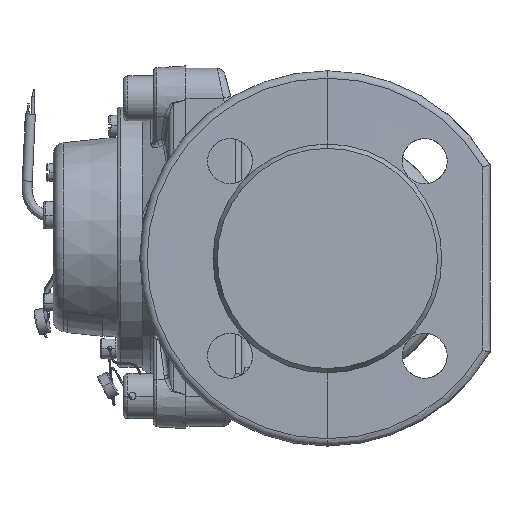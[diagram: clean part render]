
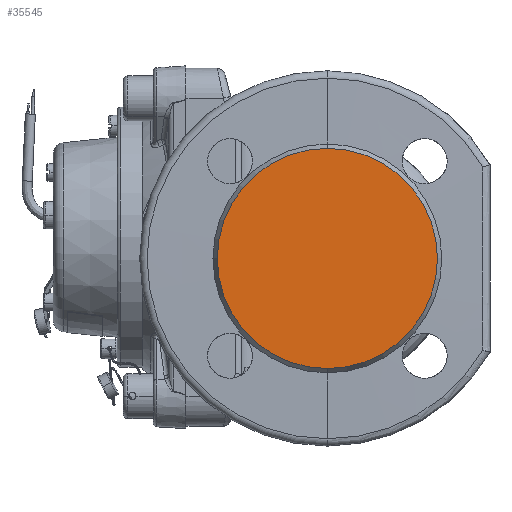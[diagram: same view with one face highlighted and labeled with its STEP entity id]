
A CAD part, left-side view. The second image highlights one B-rep face of the part: STEP entity #35545.
In plain terms, the highlighted planar face has unit normal (-1, 0, 0).
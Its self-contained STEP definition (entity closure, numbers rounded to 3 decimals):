
#4041 = EDGE_LOOP ( 'NONE', ( #31194, #27196 ) ) ;
#4471 = DIRECTION ( 'NONE',  ( 0., 0., 1. ) ) ;
#5379 = CIRCLE ( 'NONE', #78284, 44. ) ;
#8208 = CIRCLE ( 'NONE', #17828, 44. ) ;
#10934 = CARTESIAN_POINT ( 'NONE',  ( -100., 0., 0. ) ) ;
#11483 = CARTESIAN_POINT ( 'NONE',  ( -100., 0., -44. ) ) ;
#13904 = CARTESIAN_POINT ( 'NONE',  ( -100., 0., 0. ) ) ;
#15572 = DIRECTION ( 'NONE',  ( 0., 0., 1. ) ) ;
#17383 = FACE_OUTER_BOUND ( 'NONE', #4041, .T. ) ;
#17828 = AXIS2_PLACEMENT_3D ( 'NONE', #13904, #78597, #25171 ) ;
#25171 = DIRECTION ( 'NONE',  ( 0., 0., 1. ) ) ;
#27196 = ORIENTED_EDGE ( 'NONE', *, *, #39348, .T. ) ;
#30398 = DIRECTION ( 'NONE',  ( 1., 0., 0. ) ) ;
#31194 = ORIENTED_EDGE ( 'NONE', *, *, #72286, .T. ) ;
#35545 = ADVANCED_FACE ( 'NONE', ( #17383 ), #38105, .F. ) ;
#38105 = PLANE ( 'NONE',  #84657 ) ;
#39348 = EDGE_CURVE ( 'NONE', #52620, #59411, #5379, .T. ) ;
#42387 = CARTESIAN_POINT ( 'NONE',  ( -100., 0., 0. ) ) ;
#43621 = DIRECTION ( 'NONE',  ( -1., 0., 0. ) ) ;
#50563 = CARTESIAN_POINT ( 'NONE',  ( -100., 0., 44. ) ) ;
#52620 = VERTEX_POINT ( 'NONE', #11483 ) ;
#59411 = VERTEX_POINT ( 'NONE', #50563 ) ;
#72286 = EDGE_CURVE ( 'NONE', #59411, #52620, #8208, .T. ) ;
#78284 = AXIS2_PLACEMENT_3D ( 'NONE', #42387, #43621, #15572 ) ;
#78597 = DIRECTION ( 'NONE',  ( -1., 0., 0. ) ) ;
#84657 = AXIS2_PLACEMENT_3D ( 'NONE', #10934, #30398, #4471 ) ;
